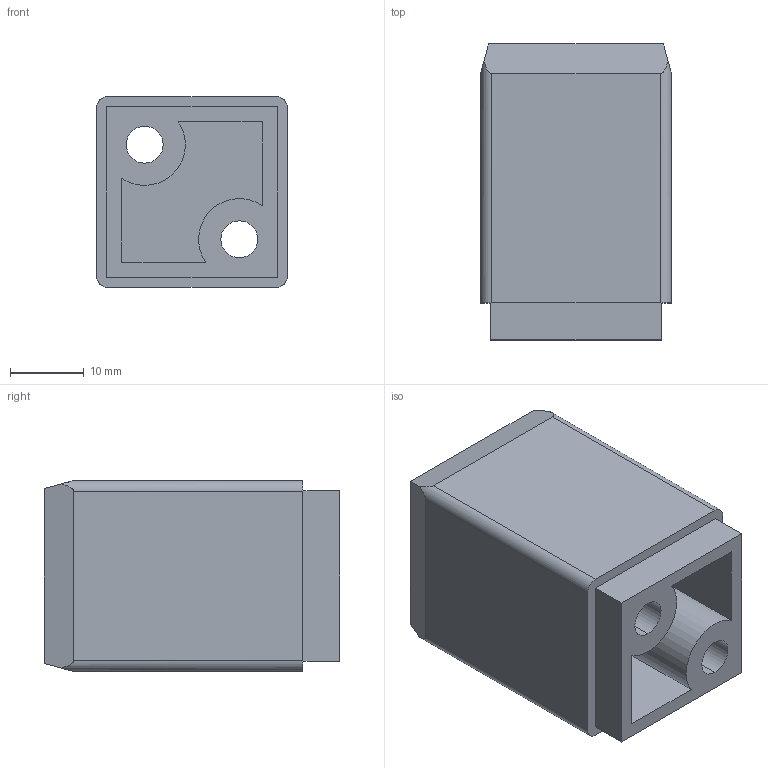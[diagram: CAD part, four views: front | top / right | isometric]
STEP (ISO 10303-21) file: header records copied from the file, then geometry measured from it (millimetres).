
FILE_DESCRIPTION (( 'STEP AP203' ), '1' );
FILE_NAME ('F030101.STEP', '2017-03-22T12:47:15', ( 'Localadmin' ), ( 'Microsoft' ), 'SwSTEP 2.0', 'SolidWorks 2016', '' );
FILE_SCHEMA (( 'CONFIG_CONTROL_DESIGN' ));
Length unit declared in the file: millimetre
Products named in the file (1): F030101
Bounding box: 25.8 x 40 x 25.8 mm (x, y, z)
Volume: 13665.3 mm3; surface area: 9607.1 mm2
Topology: 1 solids, 1 shells, 37 faces, 93 edges, 62 vertices
Faces by surface type: plane 22, cylinder 15
Entity records: 1198 total; most frequent: CARTESIAN_POINT 217, DIRECTION 187, ORIENTED_EDGE 186, EDGE_CURVE 93, AXIS2_PLACEMENT_3D 64, VERTEX_POINT 62, VECTOR 59, LINE 59
